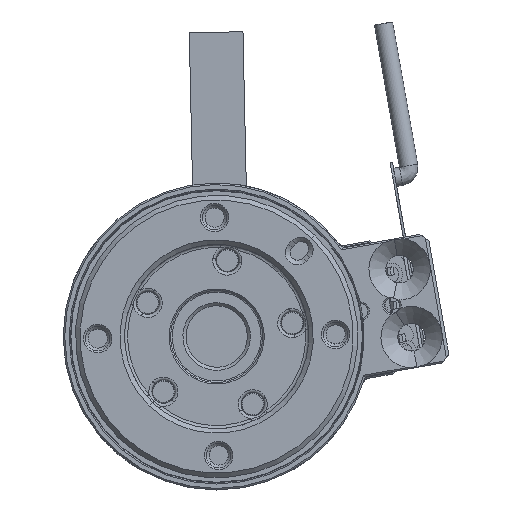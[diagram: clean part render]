
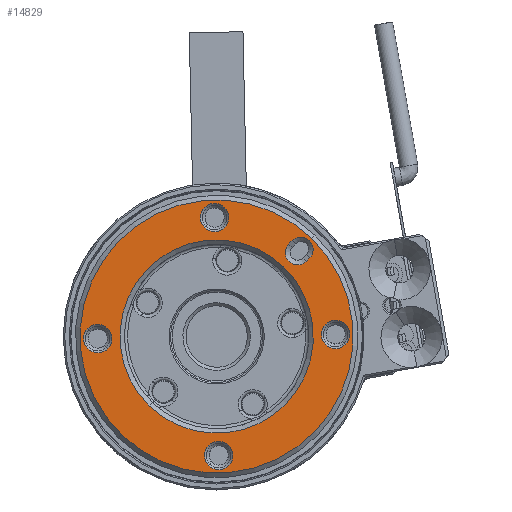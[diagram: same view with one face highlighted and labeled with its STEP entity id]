
A CAD part, front view. The second image highlights one B-rep face of the part: STEP entity #14829.
In plain terms, the highlighted planar face has unit normal (0, -1, 0) as drawn and (-1, 0, 0) by its records, which use the part's own axes.
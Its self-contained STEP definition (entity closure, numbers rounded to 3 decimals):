
#10978=CARTESIAN_POINT('',(-1.,0.,0.));
#10979=DIRECTION('',(1.,0.,0.));
#10980=DIRECTION('',(0.,0.,-1.));
#10981=AXIS2_PLACEMENT_3D('',#10978,#10979,#10980);
#10983=CARTESIAN_POINT('',(-1.,0.,0.));
#10984=DIRECTION('',(1.,0.,0.));
#10985=DIRECTION('',(0.,0.,1.));
#10986=AXIS2_PLACEMENT_3D('',#10983,#10984,#10985);
#10988=CARTESIAN_POINT('',(-1.,0.,0.));
#10989=DIRECTION('',(-1.,0.,0.));
#10990=DIRECTION('',(0.,0.,-1.));
#10991=AXIS2_PLACEMENT_3D('',#10988,#10989,#10990);
#10993=CARTESIAN_POINT('',(-1.,0.,0.));
#10994=DIRECTION('',(-1.,0.,0.));
#10995=DIRECTION('',(0.,0.,1.));
#10996=AXIS2_PLACEMENT_3D('',#10993,#10994,#10995);
#10998=CARTESIAN_POINT('',(-1.,-5.48,-5.48));
#10999=DIRECTION('',(-1.,0.,0.));
#11000=DIRECTION('',(0.,0.,-1.));
#11001=AXIS2_PLACEMENT_3D('',#10998,#10999,#11000);
#11003=CARTESIAN_POINT('',(-1.,-5.48,-5.48));
#11004=DIRECTION('',(-1.,0.,0.));
#11005=DIRECTION('',(0.,0.,1.));
#11006=AXIS2_PLACEMENT_3D('',#11003,#11004,#11005);
#11008=CARTESIAN_POINT('',(-1.,5.48,-5.48));
#11009=DIRECTION('',(-1.,0.,0.));
#11010=DIRECTION('',(0.,-1.,0.));
#11011=AXIS2_PLACEMENT_3D('',#11008,#11009,#11010);
#11013=CARTESIAN_POINT('',(-1.,5.48,-5.48));
#11014=DIRECTION('',(-1.,0.,0.));
#11015=DIRECTION('',(0.,0.,1.));
#11016=AXIS2_PLACEMENT_3D('',#11013,#11014,#11015);
#11018=CARTESIAN_POINT('',(-1.,5.48,-5.48));
#11019=DIRECTION('',(-1.,0.,0.));
#11020=DIRECTION('',(0.,1.,0.));
#11021=AXIS2_PLACEMENT_3D('',#11018,#11019,#11020);
#11023=CARTESIAN_POINT('',(-1.,5.48,-5.48));
#11024=DIRECTION('',(-1.,0.,0.));
#11025=DIRECTION('',(0.,0.,-1.));
#11026=AXIS2_PLACEMENT_3D('',#11023,#11024,#11025);
#11028=CARTESIAN_POINT('',(-1.,5.48,5.48));
#11029=DIRECTION('',(-1.,0.,0.));
#11030=DIRECTION('',(0.,0.,-1.));
#11031=AXIS2_PLACEMENT_3D('',#11028,#11029,#11030);
#11033=CARTESIAN_POINT('',(-1.,5.48,5.48));
#11034=DIRECTION('',(-1.,0.,0.));
#11035=DIRECTION('',(0.,0.,1.));
#11036=AXIS2_PLACEMENT_3D('',#11033,#11034,#11035);
#11038=CARTESIAN_POINT('',(-1.,-5.48,5.48));
#11039=DIRECTION('',(-1.,0.,0.));
#11040=DIRECTION('',(0.,-1.,0.));
#11041=AXIS2_PLACEMENT_3D('',#11038,#11039,#11040);
#11043=CARTESIAN_POINT('',(-1.,-5.48,5.48));
#11044=DIRECTION('',(-1.,0.,0.));
#11045=DIRECTION('',(0.,0.,1.));
#11046=AXIS2_PLACEMENT_3D('',#11043,#11044,#11045);
#11048=CARTESIAN_POINT('',(-1.,-5.48,5.48));
#11049=DIRECTION('',(-1.,0.,0.));
#11050=DIRECTION('',(0.,1.,0.));
#11051=AXIS2_PLACEMENT_3D('',#11048,#11049,#11050);
#11053=CARTESIAN_POINT('',(-1.,-5.48,5.48));
#11054=DIRECTION('',(-1.,0.,0.));
#11055=DIRECTION('',(0.,0.,-1.));
#11056=AXIS2_PLACEMENT_3D('',#11053,#11054,#11055);
#11058=CARTESIAN_POINT('',(-1.,0.,7.9));
#11059=DIRECTION('',(-1.,0.,0.));
#11060=DIRECTION('',(0.,-1.,0.));
#11061=AXIS2_PLACEMENT_3D('',#11058,#11059,#11060);
#11063=CARTESIAN_POINT('',(-1.,0.,7.9));
#11064=DIRECTION('',(-1.,0.,0.));
#11065=DIRECTION('',(0.,0.,1.));
#11066=AXIS2_PLACEMENT_3D('',#11063,#11064,#11065);
#11068=DIRECTION('',(0.,0.,-1.));
#11069=VECTOR('',#11068,0.3);
#11070=CARTESIAN_POINT('',(-1.,0.8,
7.9));
#11071=LINE('',#11070,#11069);
#11072=CARTESIAN_POINT('',(-1.,0.,7.6));
#11073=DIRECTION('',(-1.,0.,0.));
#11074=DIRECTION('',(0.,1.,0.));
#11075=AXIS2_PLACEMENT_3D('',#11072,#11073,#11074);
#11077=CARTESIAN_POINT('',(-1.,0.,7.6));
#11078=DIRECTION('',(-1.,0.,0.));
#11079=DIRECTION('',(0.,0.,-1.));
#11080=AXIS2_PLACEMENT_3D('',#11077,#11078,#11079);
#11082=DIRECTION('',(0.,0.,1.));
#11083=VECTOR('',#11082,0.3);
#11084=CARTESIAN_POINT('',(-1.,-0.8,
7.6));
#11085=LINE('',#11084,#11083);
#13019=CARTESIAN_POINT('',(-1.,0.,8.9));
#13020=CARTESIAN_POINT('',(-1.,0.,-8.9));
#13021=VERTEX_POINT('',#13019);
#13022=VERTEX_POINT('',#13020);
#13023=CARTESIAN_POINT('',(-1.,0.,-6.3));
#13024=CARTESIAN_POINT('',(-1.,0.,6.3));
#13025=VERTEX_POINT('',#13023);
#13026=VERTEX_POINT('',#13024);
#13027=CARTESIAN_POINT('',(-1.,-5.48,-6.405));
#13028=CARTESIAN_POINT('',(-1.,-5.48,-4.555));
#13029=VERTEX_POINT('',#13027);
#13030=VERTEX_POINT('',#13028);
#13031=CARTESIAN_POINT('',(-1.,4.555,-5.48));
#13032=CARTESIAN_POINT('',(-1.,5.48,-4.555));
#13033=VERTEX_POINT('',#13031);
#13034=VERTEX_POINT('',#13032);
#13035=CARTESIAN_POINT('',(-1.,6.405,-5.48));
#13036=VERTEX_POINT('',#13035);
#13037=CARTESIAN_POINT('',(-1.,5.48,-6.405));
#13038=VERTEX_POINT('',#13037);
#13039=CARTESIAN_POINT('',(-1.,5.48,4.555));
#13040=CARTESIAN_POINT('',(-1.,5.48,6.405));
#13041=VERTEX_POINT('',#13039);
#13042=VERTEX_POINT('',#13040);
#13043=CARTESIAN_POINT('',(-1.,-6.405,5.48));
#13044=CARTESIAN_POINT('',(-1.,-5.48,6.405));
#13045=VERTEX_POINT('',#13043);
#13046=VERTEX_POINT('',#13044);
#13047=CARTESIAN_POINT('',(-1.,-4.555,5.48));
#13048=VERTEX_POINT('',#13047);
#13049=CARTESIAN_POINT('',(-1.,-5.48,4.555));
#13050=VERTEX_POINT('',#13049);
#13051=CARTESIAN_POINT('',(-1.,-0.8,7.9));
#13052=CARTESIAN_POINT('',(-1.,0.,8.7));
#13053=VERTEX_POINT('',#13051);
#13054=VERTEX_POINT('',#13052);
#13055=CARTESIAN_POINT('',(-1.,0.8,7.9));
#13056=VERTEX_POINT('',#13055);
#13057=CARTESIAN_POINT('',(-1.,0.8,
7.6));
#13058=VERTEX_POINT('',#13057);
#13059=CARTESIAN_POINT('',(-1.,0.,6.8));
#13060=VERTEX_POINT('',#13059);
#13061=CARTESIAN_POINT('',(-1.,-0.8,7.6));
#13062=VERTEX_POINT('',#13061);
#14767=CARTESIAN_POINT('',(-1.,0.,0.));
#14768=DIRECTION('',(1.,0.,0.));
#14769=DIRECTION('',(0.,0.,1.));
#14770=AXIS2_PLACEMENT_3D('',#14767,#14768,#14769);
#14771=PLANE('',#14770);
#14773=ORIENTED_EDGE('',*,*,#14772,.T.);
#14774=ORIENTED_EDGE('',*,*,#14757,.T.);
#14775=EDGE_LOOP('',(#14773,#14774));
#14776=FACE_OUTER_BOUND('',#14775,.F.);
#14778=ORIENTED_EDGE('',*,*,#14777,.T.);
#14780=ORIENTED_EDGE('',*,*,#14779,.T.);
#14781=EDGE_LOOP('',(#14778,#14780));
#14782=FACE_BOUND('',#14781,.F.);
#14784=ORIENTED_EDGE('',*,*,#14783,.T.);
#14786=ORIENTED_EDGE('',*,*,#14785,.T.);
#14787=EDGE_LOOP('',(#14784,#14786));
#14788=FACE_BOUND('',#14787,.F.);
#14790=ORIENTED_EDGE('',*,*,#14789,.T.);
#14792=ORIENTED_EDGE('',*,*,#14791,.T.);
#14794=ORIENTED_EDGE('',*,*,#14793,.T.);
#14796=ORIENTED_EDGE('',*,*,#14795,.T.);
#14797=EDGE_LOOP('',(#14790,#14792,#14794,#14796));
#14798=FACE_BOUND('',#14797,.F.);
#14800=ORIENTED_EDGE('',*,*,#14799,.T.);
#14802=ORIENTED_EDGE('',*,*,#14801,.T.);
#14803=EDGE_LOOP('',(#14800,#14802));
#14804=FACE_BOUND('',#14803,.F.);
#14806=ORIENTED_EDGE('',*,*,#14805,.T.);
#14808=ORIENTED_EDGE('',*,*,#14807,.T.);
#14810=ORIENTED_EDGE('',*,*,#14809,.T.);
#14812=ORIENTED_EDGE('',*,*,#14811,.T.);
#14813=EDGE_LOOP('',(#14806,#14808,#14810,#14812));
#14814=FACE_BOUND('',#14813,.F.);
#14816=ORIENTED_EDGE('',*,*,#14815,.T.);
#14818=ORIENTED_EDGE('',*,*,#14817,.T.);
#14820=ORIENTED_EDGE('',*,*,#14819,.T.);
#14822=ORIENTED_EDGE('',*,*,#14821,.T.);
#14824=ORIENTED_EDGE('',*,*,#14823,.T.);
#14826=ORIENTED_EDGE('',*,*,#14825,.T.);
#14827=EDGE_LOOP('',(#14816,#14818,#14820,#14822,#14824,#14826));
#14828=FACE_BOUND('',#14827,.F.);
#14829=ADVANCED_FACE('',(#14776,#14782,#14788,#14798,#14804,#14814,#14828),
#14771,.F.);
#10982=CIRCLE('',#10981,8.9);
#10987=CIRCLE('',#10986,8.9);
#10992=CIRCLE('',#10991,6.3);
#10997=CIRCLE('',#10996,6.3);
#11002=CIRCLE('',#11001,0.925);
#11007=CIRCLE('',#11006,0.925);
#11012=CIRCLE('',#11011,0.925);
#11017=CIRCLE('',#11016,0.925);
#11022=CIRCLE('',#11021,0.925);
#11027=CIRCLE('',#11026,0.925);
#11032=CIRCLE('',#11031,0.925);
#11037=CIRCLE('',#11036,0.925);
#11042=CIRCLE('',#11041,0.925);
#11047=CIRCLE('',#11046,0.925);
#11052=CIRCLE('',#11051,0.925);
#11057=CIRCLE('',#11056,0.925);
#11062=CIRCLE('',#11061,0.8);
#11067=CIRCLE('',#11066,0.8);
#11076=CIRCLE('',#11075,0.8);
#11081=CIRCLE('',#11080,0.8);
#14757=EDGE_CURVE('',#13021,#13022,#10987,.T.);
#14772=EDGE_CURVE('',#13022,#13021,#10982,.T.);
#14777=EDGE_CURVE('',#13025,#13026,#10992,.T.);
#14779=EDGE_CURVE('',#13026,#13025,#10997,.T.);
#14783=EDGE_CURVE('',#13029,#13030,#11002,.T.);
#14785=EDGE_CURVE('',#13030,#13029,#11007,.T.);
#14789=EDGE_CURVE('',#13033,#13034,#11012,.T.);
#14791=EDGE_CURVE('',#13034,#13036,#11017,.T.);
#14793=EDGE_CURVE('',#13036,#13038,#11022,.T.);
#14795=EDGE_CURVE('',#13038,#13033,#11027,.T.);
#14799=EDGE_CURVE('',#13041,#13042,#11032,.T.);
#14801=EDGE_CURVE('',#13042,#13041,#11037,.T.);
#14805=EDGE_CURVE('',#13045,#13046,#11042,.T.);
#14807=EDGE_CURVE('',#13046,#13048,#11047,.T.);
#14809=EDGE_CURVE('',#13048,#13050,#11052,.T.);
#14811=EDGE_CURVE('',#13050,#13045,#11057,.T.);
#14815=EDGE_CURVE('',#13053,#13054,#11062,.T.);
#14817=EDGE_CURVE('',#13054,#13056,#11067,.T.);
#14819=EDGE_CURVE('',#13056,#13058,#11071,.T.);
#14821=EDGE_CURVE('',#13058,#13060,#11076,.T.);
#14823=EDGE_CURVE('',#13060,#13062,#11081,.T.);
#14825=EDGE_CURVE('',#13062,#13053,#11085,.T.);
